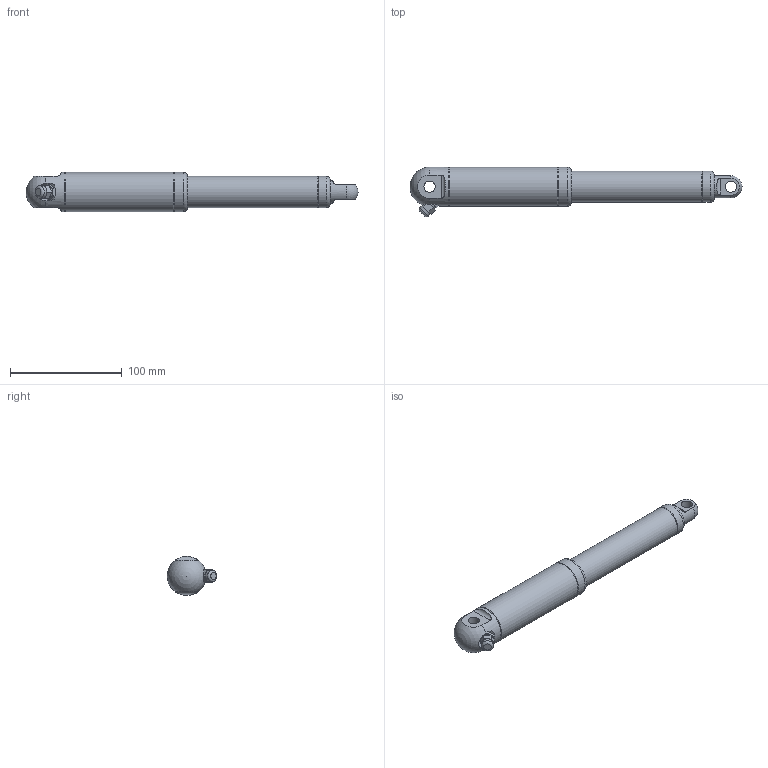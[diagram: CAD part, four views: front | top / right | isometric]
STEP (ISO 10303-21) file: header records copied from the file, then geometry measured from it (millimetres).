
FILE_DESCRIPTION(/* description */ ('STEP AP214'),/* implementation_level */ '2;1');
FILE_NAME(/* name */ '350100-191222+020000_0-0',/* time_stamp */ '2025-09-22T12:26:59+02:00',/* author */ ('License CC BY-ND 4.0'),/* organization */ ('CADENAS'),/* preprocessor_version */ 'ST-DEVELOPER v19.3',/* originating_system */ 'PARTsolutions',/* authorisation */ ' ');
FILE_SCHEMA (('AUTOMOTIVE_DESIGN {1 0 10303 214 3 1 1}'));
Length unit declared in the file: millimetre
Products named in the file (6): 350100-191222+020000_0-0; 350100191+200---(2_b)---(Shortened view 0); 35010002---(2_p)---(Shortened view 0); 352---(bp); 3500---(r); 35222+0---(bb)
Assembly tree (5 placements, depth 2):
  350100-191222+020000_0-0
    350100191+200---(2_b)---(Shortened view 0)
    35010002---(2_p)---(Shortened view 0)
    352---(bp)
    3500---(r)
    35222+0---(bb)
Bounding box: 297.5 x 44.4 x 35 mm (x, y, z)
Volume: 198605.6 mm3; surface area: 54365 mm2
Topology: 5 solids, 5 shells, 70 faces, 148 edges, 96 vertices
Faces by surface type: plane 35, cylinder 22, cone 8, torus 3, sphere 2
Full cylindrical faces by diameter (mm): 4 x1, 10 x3, 10.7 x1, 20 x4, 23.7 x1, 24 x1, 28 x2, 28.2 x1, 35 x3
Entity records: 2085 total; most frequent: CARTESIAN_POINT 344, DIRECTION 306, ORIENTED_EDGE 216, AXIS2_PLACEMENT_3D 129, EDGE_LOOP 114, FACE_BOUND 114, EDGE_CURVE 108, VERTEX_POINT 86
